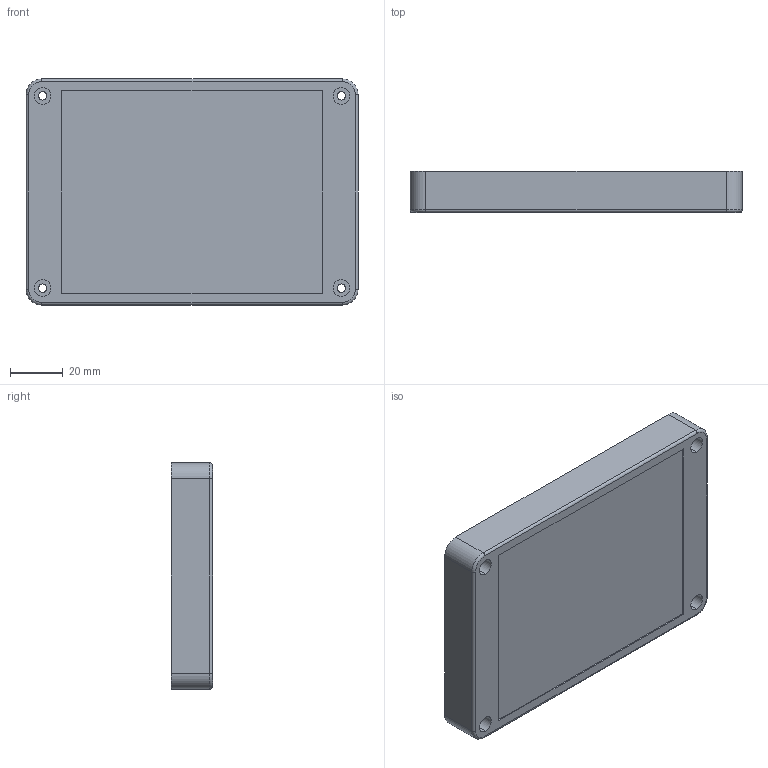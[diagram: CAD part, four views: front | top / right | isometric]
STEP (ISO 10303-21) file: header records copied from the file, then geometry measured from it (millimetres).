
FILE_DESCRIPTION (( 'STEP AP214' ), '1' );
FILE_NAME ('Tapa PP120.STEP', '2019-11-08T19:18:12', ( 'aaa' ), ( '' ), 'SwSTEP 2.0', 'SolidWorks 2014', '' );
FILE_SCHEMA (( 'AUTOMOTIVE_DESIGN' ));
Length unit declared in the file: millimetre
Products named in the file (1): Tapa PP120
Bounding box: 125.5 x 15.5 x 85.5 mm (x, y, z)
Volume: 52846.7 mm3; surface area: 35455.8 mm2
Topology: 1 solids, 1 shells, 118 faces, 316 edges, 208 vertices
Faces by surface type: cylinder 60, plane 54, torus 4
Entity records: 3770 total; most frequent: DIRECTION 678, CARTESIAN_POINT 643, ORIENTED_EDGE 632, EDGE_CURVE 316, AXIS2_PLACEMENT_3D 243, VERTEX_POINT 208, LINE 192, VECTOR 192
